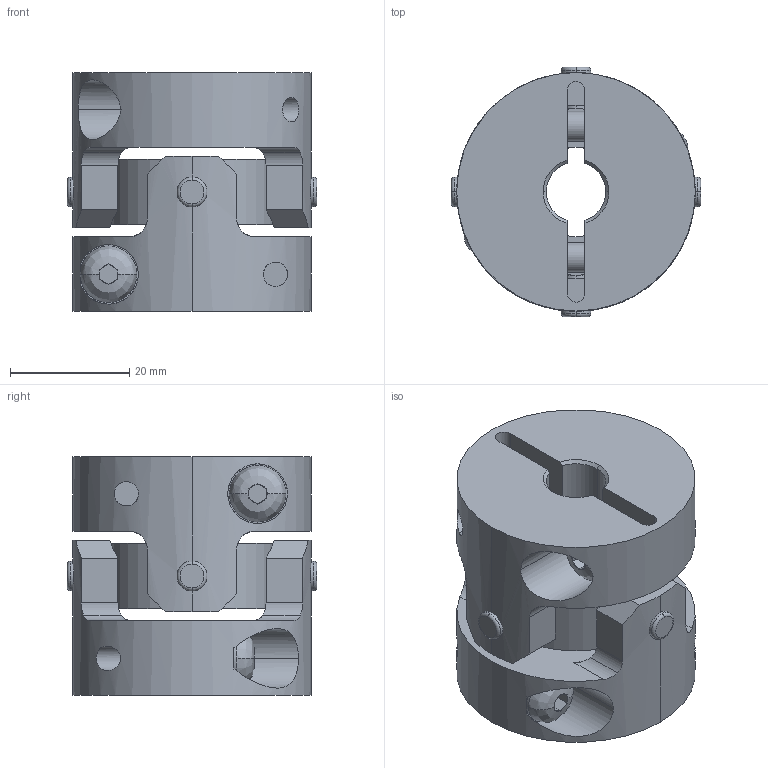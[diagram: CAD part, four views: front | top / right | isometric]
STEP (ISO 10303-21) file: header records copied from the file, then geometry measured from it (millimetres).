
FILE_DESCRIPTION((''),'2;1');
FILE_NAME('UA-40C-10×18.stp','2013-11-19T08:24:00',(''),(''),'AutoCAD STEP 2000i','AutoCAD 2000i',', , ');
FILE_SCHEMA(('CONFIG_CONTROL_DESIGN'));
Length unit declared in the file: millimetre
Products named in the file (7): UA-40C-8×18; 忣兜1; UA-4002-D18; BTN-M5; UA-4002-D08-1; UA-4002-D08; UA40-SEN
Assembly tree (8 placements, depth 3):
  UA-40C-8×18
    忣兜1
    UA-4002-D18
      BTN-M5
    UA-4002-D08-1
      BTN-M5
    UA-4002-D08
      BTN-M5
    UA40-SEN
Bounding box: 41.81 x 41.81 x 40 mm (x, y, z)
Volume: 33182.1 mm3; surface area: 15206.3 mm2
Topology: 1 solids, 1 shells, 252 faces, 654 edges, 412 vertices
Faces by surface type: plane 124, cylinder 96, cone 16, bspline 8, torus 8
Entity records: 9705 total; most frequent: CARTESIAN_POINT 3363, DIRECTION 1308, ORIENTED_EDGE 1308, EDGE_CURVE 654, AXIS2_PLACEMENT_3D 505, VERTEX_POINT 412, VECTOR 298, LINE 298
